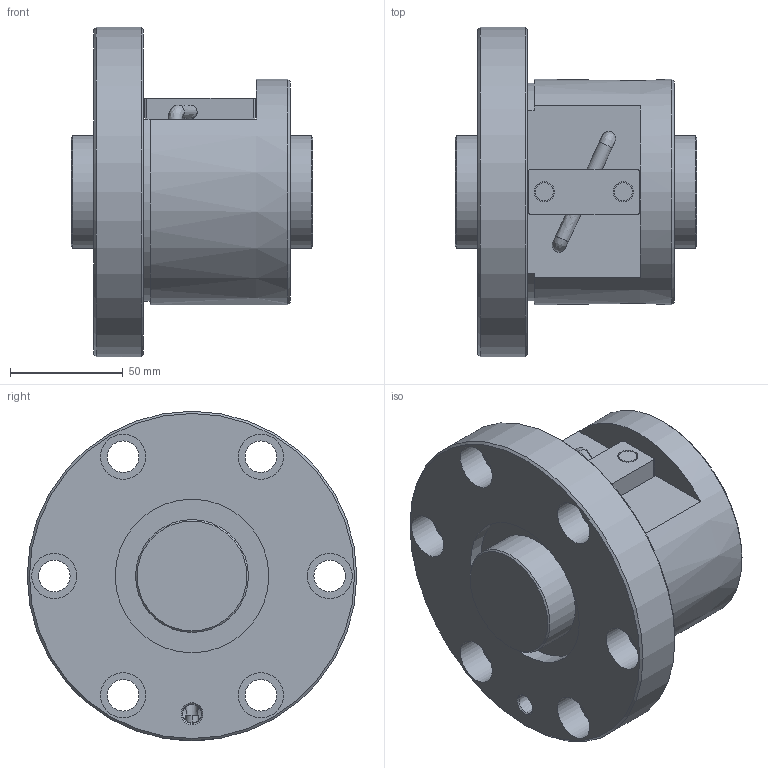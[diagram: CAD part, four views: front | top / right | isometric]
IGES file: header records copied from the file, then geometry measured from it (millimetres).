
Start section: Data from Parasolid IGES Translator 26.0.171, Copyright(c) 2006 Siemens PLM Software. All Rights Reserved.
Global section: file name: BNF5012V-2.5RRG1+107LC0_000_rev.igs; native system: By Siemens PLM Incorporated; preprocessor: XPlus GENERIC/IGES 26.0.171; author: Noname; organization: Noname; date: 20240806.090805; units: millimetre
Bounding box: 107 x 146 x 146 mm (x, y, z)
Surface area: 105091.5 mm2 (no closed solid volume)
Topology: 0 solids, 0 shells, 72 faces, 334 edges, 294 vertices
Faces by surface type: revolution 45, extrusion 27
